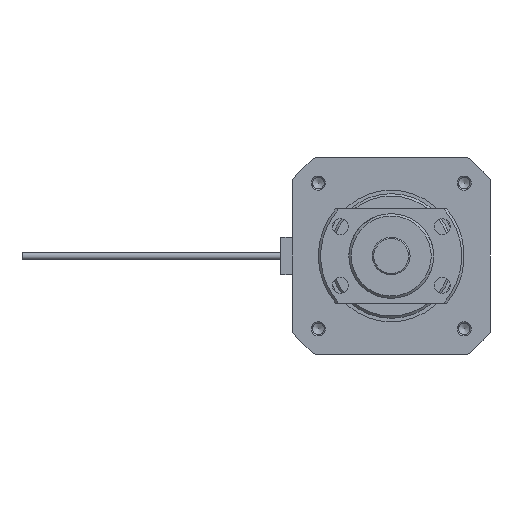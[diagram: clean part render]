
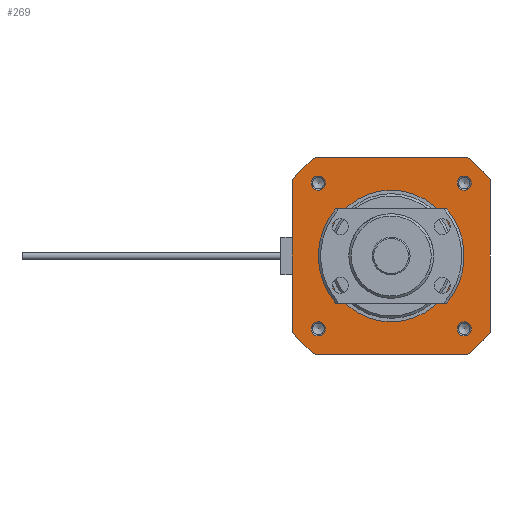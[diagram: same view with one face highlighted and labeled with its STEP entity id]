
A CAD part, left-side view. The second image highlights one B-rep face of the part: STEP entity #269.
In plain terms, the highlighted planar face has unit normal (-1, 0, 0) as drawn and (0, 0, 1) by its records, which use the part's own axes.
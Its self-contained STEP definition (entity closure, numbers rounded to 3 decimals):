
#269 = ADVANCED_FACE( '', ( #605, #606, #607, #608, #609, #610 ), #611, .T. );
#605 = FACE_BOUND( '', #1036, .T. );
#606 = FACE_BOUND( '', #1037, .T. );
#607 = FACE_BOUND( '', #1038, .T. );
#608 = FACE_BOUND( '', #1039, .T. );
#609 = FACE_BOUND( '', #1040, .T. );
#610 = FACE_OUTER_BOUND( '', #1041, .T. );
#611 = PLANE( '', #1042 );
#1036 = EDGE_LOOP( '', ( #1647 ) );
#1037 = EDGE_LOOP( '', ( #1648 ) );
#1038 = EDGE_LOOP( '', ( #1649 ) );
#1039 = EDGE_LOOP( '', ( #1650 ) );
#1040 = EDGE_LOOP( '', ( #1651 ) );
#1041 = EDGE_LOOP( '', ( #1652, #1653, #1654, #1655, #1656, #1657, #1658, #1659 ) );
#1042 = AXIS2_PLACEMENT_3D( '', #1660, #1661, #1662 );
#1647 = ORIENTED_EDGE( '', *, *, #2426, .T. );
#1648 = ORIENTED_EDGE( '', *, *, #2351, .T. );
#1649 = ORIENTED_EDGE( '', *, *, #2427, .T. );
#1650 = ORIENTED_EDGE( '', *, *, #2305, .T. );
#1651 = ORIENTED_EDGE( '', *, *, #2428, .T. );
#1652 = ORIENTED_EDGE( '', *, *, #2368, .T. );
#1653 = ORIENTED_EDGE( '', *, *, #2429, .T. );
#1654 = ORIENTED_EDGE( '', *, *, #2412, .T. );
#1655 = ORIENTED_EDGE( '', *, *, #2430, .T. );
#1656 = ORIENTED_EDGE( '', *, *, #2431, .T. );
#1657 = ORIENTED_EDGE( '', *, *, #2432, .T. );
#1658 = ORIENTED_EDGE( '', *, *, #2396, .T. );
#1659 = ORIENTED_EDGE( '', *, *, #2433, .T. );
#1660 = CARTESIAN_POINT( '', ( 0., 0., -205. ) );
#1661 = DIRECTION( '', ( 0., 0., 1. ) );
#1662 = DIRECTION( '', ( 1., 0., 0. ) );
#2305 = EDGE_CURVE( '', #2707, #2707, #2708, .T. );
#2351 = EDGE_CURVE( '', #2785, #2785, #2786, .T. );
#2368 = EDGE_CURVE( '', #2808, #2806, #2809, .T. );
#2396 = EDGE_CURVE( '', #2850, #2848, #2851, .T. );
#2412 = EDGE_CURVE( '', #2876, #2874, #2877, .T. );
#2426 = EDGE_CURVE( '', #2897, #2897, #2898, .T. );
#2427 = EDGE_CURVE( '', #2899, #2899, #2900, .T. );
#2428 = EDGE_CURVE( '', #2901, #2901, #2902, .T. );
#2429 = EDGE_CURVE( '', #2806, #2876, #2903, .T. );
#2430 = EDGE_CURVE( '', #2874, #2904, #2905, .T. );
#2431 = EDGE_CURVE( '', #2904, #2906, #2907, .T. );
#2432 = EDGE_CURVE( '', #2906, #2850, #2908, .T. );
#2433 = EDGE_CURVE( '', #2848, #2808, #2909, .T. );
#2707 = VERTEX_POINT( '', #3268 );
#2708 = CIRCLE( '', #3269, 1.5 );
#2785 = VERTEX_POINT( '', #3361 );
#2786 = CIRCLE( '', #3362, 1.5 );
#2806 = VERTEX_POINT( '', #3389 );
#2808 = VERTEX_POINT( '', #3392 );
#2809 = LINE( '', #3393, #3394 );
#2848 = VERTEX_POINT( '', #3490 );
#2850 = VERTEX_POINT( '', #3493 );
#2851 = LINE( '', #3494, #3495 );
#2874 = VERTEX_POINT( '', #3531 );
#2876 = VERTEX_POINT( '', #3534 );
#2877 = LINE( '', #3535, #3536 );
#2897 = VERTEX_POINT( '', #3561 );
#2898 = CIRCLE( '', #3562, 1.5 );
#2899 = VERTEX_POINT( '', #3563 );
#2900 = CIRCLE( '', #3564, 1.5 );
#2901 = VERTEX_POINT( '', #3565 );
#2902 = CIRCLE( '', #3566, 14. );
#2903 = CIRCLE( '', #3567, 26.5 );
#2904 = VERTEX_POINT( '', #3568 );
#2905 = CIRCLE( '', #3569, 26.5 );
#2906 = VERTEX_POINT( '', #3570 );
#2907 = LINE( '', #3571, #3572 );
#2908 = CIRCLE( '', #3573, 26.5 );
#2909 = CIRCLE( '', #3574, 26.5 );
#3268 = CARTESIAN_POINT( '', ( 14., 15.5, -205. ) );
#3269 = AXIS2_PLACEMENT_3D( '', #3985, #3986, #3987 );
#3361 = CARTESIAN_POINT( '', ( -17., -15.5, -205. ) );
#3362 = AXIS2_PLACEMENT_3D( '', #4069, #4070, #4071 );
#3389 = CARTESIAN_POINT( '', ( -21., -16.163, -205. ) );
#3392 = CARTESIAN_POINT( '', ( -21., 16.163, -205. ) );
#3393 = CARTESIAN_POINT( '', ( -21., 16.163, -205. ) );
#3394 = VECTOR( '', #4089, 1000. );
#3490 = CARTESIAN_POINT( '', ( -16.163, 21., -205. ) );
#3493 = CARTESIAN_POINT( '', ( 16.163, 21., -205. ) );
#3494 = CARTESIAN_POINT( '', ( 16.163, 21., -205. ) );
#3495 = VECTOR( '', #4124, 1000. );
#3531 = CARTESIAN_POINT( '', ( 16.163, -21., -205. ) );
#3534 = CARTESIAN_POINT( '', ( -16.163, -21., -205. ) );
#3535 = CARTESIAN_POINT( '', ( -16.163, -21., -205. ) );
#3536 = VECTOR( '', #4139, 1000. );
#3561 = CARTESIAN_POINT( '', ( 14., -15.5, -205. ) );
#3562 = AXIS2_PLACEMENT_3D( '', #4154, #4155, #4156 );
#3563 = CARTESIAN_POINT( '', ( -17., 15.5, -205. ) );
#3564 = AXIS2_PLACEMENT_3D( '', #4157, #4158, #4159 );
#3565 = CARTESIAN_POINT( '', ( -14., 0., -205. ) );
#3566 = AXIS2_PLACEMENT_3D( '', #4160, #4161, #4162 );
#3567 = AXIS2_PLACEMENT_3D( '', #4163, #4164, #4165 );
#3568 = CARTESIAN_POINT( '', ( 21., -16.163, -205. ) );
#3569 = AXIS2_PLACEMENT_3D( '', #4166, #4167, #4168 );
#3570 = CARTESIAN_POINT( '', ( 21., 16.163, -205. ) );
#3571 = CARTESIAN_POINT( '', ( 21., -16.163, -205. ) );
#3572 = VECTOR( '', #4169, 1000. );
#3573 = AXIS2_PLACEMENT_3D( '', #4170, #4171, #4172 );
#3574 = AXIS2_PLACEMENT_3D( '', #4173, #4174, #4175 );
#3985 = CARTESIAN_POINT( '', ( 15.5, 15.5, -205. ) );
#3986 = DIRECTION( '', ( 0., 0., -1. ) );
#3987 = DIRECTION( '', ( -1., 0., 0. ) );
#4069 = CARTESIAN_POINT( '', ( -15.5, -15.5, -205. ) );
#4070 = DIRECTION( '', ( 0., 0., -1. ) );
#4071 = DIRECTION( '', ( -1., 0., 0. ) );
#4089 = DIRECTION( '', ( 0., -1., 0. ) );
#4124 = DIRECTION( '', ( -1., 0., 0. ) );
#4139 = DIRECTION( '', ( 1., 0., 0. ) );
#4154 = CARTESIAN_POINT( '', ( 15.5, -15.5, -205. ) );
#4155 = DIRECTION( '', ( 0., 0., -1. ) );
#4156 = DIRECTION( '', ( -1., 0., 0. ) );
#4157 = CARTESIAN_POINT( '', ( -15.5, 15.5, -205. ) );
#4158 = DIRECTION( '', ( 0., 0., -1. ) );
#4159 = DIRECTION( '', ( -1., 0., 0. ) );
#4160 = CARTESIAN_POINT( '', ( 0., 0., -205. ) );
#4161 = DIRECTION( '', ( 0., 0., -1. ) );
#4162 = DIRECTION( '', ( -1., 0., 0. ) );
#4163 = CARTESIAN_POINT( '', ( 0., 0., -205. ) );
#4164 = DIRECTION( '', ( 0., 0., 1. ) );
#4165 = DIRECTION( '', ( 1., 0., 0. ) );
#4166 = CARTESIAN_POINT( '', ( 0., 0., -205. ) );
#4167 = DIRECTION( '', ( 0., 0., 1. ) );
#4168 = DIRECTION( '', ( 1., 0., 0. ) );
#4169 = DIRECTION( '', ( 0., 1., 0. ) );
#4170 = CARTESIAN_POINT( '', ( 0., 0., -205. ) );
#4171 = DIRECTION( '', ( 0., 0., 1. ) );
#4172 = DIRECTION( '', ( 1., 0., 0. ) );
#4173 = CARTESIAN_POINT( '', ( 0., 0., -205. ) );
#4174 = DIRECTION( '', ( 0., 0., 1. ) );
#4175 = DIRECTION( '', ( 1., 0., 0. ) );
